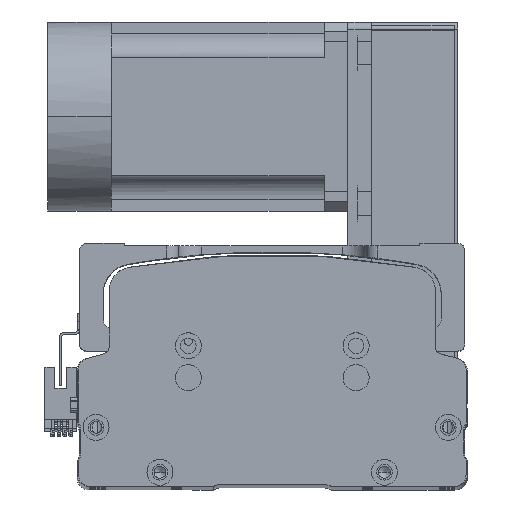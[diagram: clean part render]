
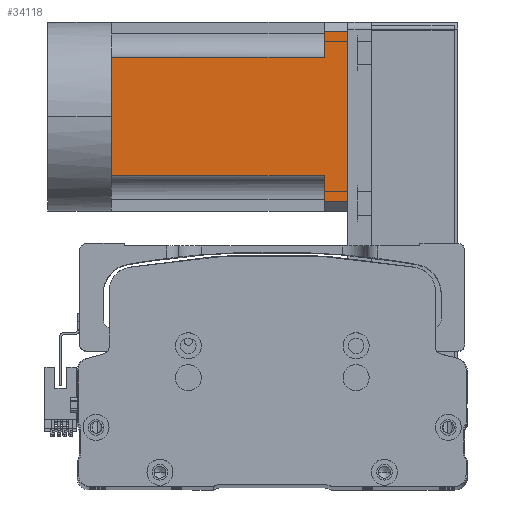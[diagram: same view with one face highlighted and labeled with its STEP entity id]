
A CAD part, top view. The second image highlights one B-rep face of the part: STEP entity #34118.
In plain terms, the highlighted planar face has unit normal (0, 0, 1) as drawn and (0, 0, -1) by its records, which use the part's own axes.
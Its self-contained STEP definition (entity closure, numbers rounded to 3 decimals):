
#900 = VERTEX_POINT ( 'NONE', #9138 ) ;
#1367 = LINE ( 'NONE', #12441, #51450 ) ;
#2885 = VERTEX_POINT ( 'NONE', #10122 ) ;
#3446 = EDGE_CURVE ( 'NONE', #24281, #61222, #27769, .T. ) ;
#6553 = CARTESIAN_POINT ( 'NONE',  ( -40., 90., -40. ) ) ;
#6652 = ORIENTED_EDGE ( 'NONE', *, *, #52942, .T. ) ;
#6985 = CARTESIAN_POINT ( 'NONE',  ( 36., 100., -40. ) ) ;
#7155 = VECTOR ( 'NONE', #33911, 1000. ) ;
#8258 = VERTEX_POINT ( 'NONE', #46533 ) ;
#9138 = CARTESIAN_POINT ( 'NONE',  ( 36., 90., -40. ) ) ;
#9571 = DIRECTION ( 'NONE',  ( -1., 0., 0. ) ) ;
#10122 = CARTESIAN_POINT ( 'NONE',  ( 0., 0., -40. ) ) ;
#10795 = CARTESIAN_POINT ( 'NONE',  ( -36., -27., -40. ) ) ;
#11227 = LINE ( 'NONE', #50229, #48402 ) ;
#12441 = CARTESIAN_POINT ( 'NONE',  ( -40., 100., -40. ) ) ;
#12917 = EDGE_CURVE ( 'NONE', #41734, #37241, #18541, .T. ) ;
#14376 = EDGE_CURVE ( 'NONE', #43876, #900, #46915, .T. ) ;
#14904 = VECTOR ( 'NONE', #40438, 1000. ) ;
#15023 = CARTESIAN_POINT ( 'NONE',  ( -25., 0., -40. ) ) ;
#17648 = LINE ( 'NONE', #28587, #54789 ) ;
#18541 = LINE ( 'NONE', #52987, #7155 ) ;
#19024 = CARTESIAN_POINT ( 'NONE',  ( -40., 90., -40. ) ) ;
#20157 = FACE_OUTER_BOUND ( 'NONE', #57701, .T. ) ;
#21256 = CARTESIAN_POINT ( 'NONE',  ( -36., 90., -40. ) ) ;
#23011 = CARTESIAN_POINT ( 'NONE',  ( 36., -27., -40. ) ) ;
#23551 = VECTOR ( 'NONE', #9571, 1000. ) ;
#24206 = EDGE_CURVE ( 'NONE', #2885, #42077, #49348, .T. ) ;
#24281 = VERTEX_POINT ( 'NONE', #58570 ) ;
#24508 = ORIENTED_EDGE ( 'NONE', *, *, #26769, .F. ) ;
#24751 = EDGE_CURVE ( 'NONE', #42077, #24281, #17648, .T. ) ;
#26250 = CARTESIAN_POINT ( 'NONE',  ( 25., 90., -40. ) ) ;
#26769 = EDGE_CURVE ( 'NONE', #43876, #8258, #1367, .T. ) ;
#27039 = DIRECTION ( 'NONE',  ( -1., 0., 0. ) ) ;
#27769 = LINE ( 'NONE', #6553, #14904 ) ;
#28587 = CARTESIAN_POINT ( 'NONE',  ( -25., -27., -40. ) ) ;
#28646 = CARTESIAN_POINT ( 'NONE',  ( -40., 0., -40. ) ) ;
#29004 = ORIENTED_EDGE ( 'NONE', *, *, #50697, .T. ) ;
#30908 = DIRECTION ( 'NONE',  ( -1., 0., 0. ) ) ;
#31114 = AXIS2_PLACEMENT_3D ( 'NONE', #42752, #47442, #47652 ) ;
#31845 = EDGE_CURVE ( 'NONE', #900, #41734, #38702, .T. ) ;
#33911 = DIRECTION ( 'NONE',  ( 0., -1., 0. ) ) ;
#34001 = VECTOR ( 'NONE', #37830, 1000. ) ;
#34118 = ADVANCED_FACE ( 'NONE', ( #20157 ), #37854, .T. ) ;
#37193 = ORIENTED_EDGE ( 'NONE', *, *, #24206, .T. ) ;
#37241 = VERTEX_POINT ( 'NONE', #58685 ) ;
#37830 = DIRECTION ( 'NONE',  ( 0., -1., 0. ) ) ;
#37854 = PLANE ( 'NONE',  #31114 ) ;
#38702 = LINE ( 'NONE', #19024, #61482 ) ;
#39796 = DIRECTION ( 'NONE',  ( 0., 1., 0. ) ) ;
#40438 = DIRECTION ( 'NONE',  ( -1., 0., 0. ) ) ;
#41734 = VERTEX_POINT ( 'NONE', #26250 ) ;
#42077 = VERTEX_POINT ( 'NONE', #15023 ) ;
#42752 = CARTESIAN_POINT ( 'NONE',  ( -40., -27., -40. ) ) ;
#43876 = VERTEX_POINT ( 'NONE', #6985 ) ;
#46305 = ORIENTED_EDGE ( 'NONE', *, *, #3446, .T. ) ;
#46533 = CARTESIAN_POINT ( 'NONE',  ( -36., 100., -40. ) ) ;
#46915 = LINE ( 'NONE', #23011, #34001 ) ;
#47442 = DIRECTION ( 'NONE',  ( 0., 0., -1. ) ) ;
#47652 = DIRECTION ( 'NONE',  ( -1., 0., 0. ) ) ;
#47876 = ORIENTED_EDGE ( 'NONE', *, *, #12917, .T. ) ;
#48083 = DIRECTION ( 'NONE',  ( -1., 0., 0. ) ) ;
#48402 = VECTOR ( 'NONE', #30908, 1000. ) ;
#49348 = LINE ( 'NONE', #28646, #23551 ) ;
#50229 = CARTESIAN_POINT ( 'NONE',  ( -40., 0., -40. ) ) ;
#50697 = EDGE_CURVE ( 'NONE', #61222, #8258, #54760, .T. ) ;
#51450 = VECTOR ( 'NONE', #27039, 1000. ) ;
#52942 = EDGE_CURVE ( 'NONE', #37241, #2885, #11227, .T. ) ;
#52987 = CARTESIAN_POINT ( 'NONE',  ( 25., -27., -40. ) ) ;
#53246 = VECTOR ( 'NONE', #39796, 1000. ) ;
#54760 = LINE ( 'NONE', #10795, #53246 ) ;
#54789 = VECTOR ( 'NONE', #62523, 1000. ) ;
#55027 = ORIENTED_EDGE ( 'NONE', *, *, #24751, .T. ) ;
#55107 = ORIENTED_EDGE ( 'NONE', *, *, #31845, .T. ) ;
#57701 = EDGE_LOOP ( 'NONE', ( #24508, #62540, #55107, #47876, #6652, #37193, #55027, #46305, #29004 ) ) ;
#58570 = CARTESIAN_POINT ( 'NONE',  ( -25., 90., -40. ) ) ;
#58685 = CARTESIAN_POINT ( 'NONE',  ( 25., 0., -40. ) ) ;
#61222 = VERTEX_POINT ( 'NONE', #21256 ) ;
#61482 = VECTOR ( 'NONE', #48083, 1000. ) ;
#62523 = DIRECTION ( 'NONE',  ( 0., 1., 0. ) ) ;
#62540 = ORIENTED_EDGE ( 'NONE', *, *, #14376, .T. ) ;
